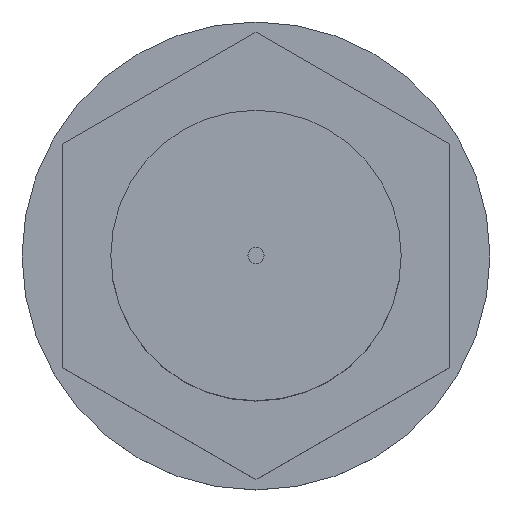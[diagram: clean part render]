
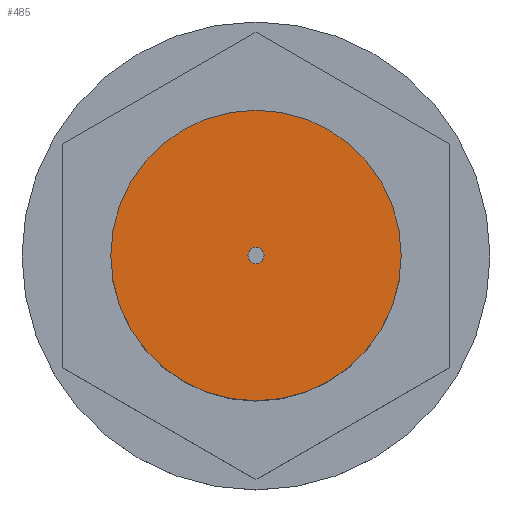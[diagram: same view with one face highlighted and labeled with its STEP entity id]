
A CAD part, top view. The second image highlights one B-rep face of the part: STEP entity #485.
In plain terms, the highlighted planar face has unit normal (0, 0, 1) as drawn and (-1, 0, 0) by its records, which use the part's own axes.
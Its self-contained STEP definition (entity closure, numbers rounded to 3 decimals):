
#260 = VERTEX_POINT ( 'NONE', #692 ) ;
#262 = EDGE_CURVE ( 'NONE', #260, #263, #691, .T. ) ;
#263 = VERTEX_POINT ( 'NONE', #592 ) ;
#449 = VERTEX_POINT ( 'NONE', #820 ) ;
#451 = EDGE_CURVE ( 'NONE', #452, #449, #1007, .T. ) ;
#452 = VERTEX_POINT ( 'NONE', #1019 ) ;
#485 = ADVANCED_FACE ( 'NONE', ( #1164, #1159 ), #1158, .F. ) ;
#486 = EDGE_LOOP ( 'NONE', ( #487, #489 ) ) ;
#487 = ORIENTED_EDGE ( 'NONE', *, *, #488, .F. ) ;
#488 = EDGE_CURVE ( 'NONE', #263, #260, #1153, .T. ) ;
#489 = ORIENTED_EDGE ( 'NONE', *, *, #262, .F. ) ;
#490 = EDGE_LOOP ( 'NONE', ( #491, #492 ) ) ;
#491 = ORIENTED_EDGE ( 'NONE', *, *, #451, .T. ) ;
#492 = ORIENTED_EDGE ( 'NONE', *, *, #493, .T. ) ;
#493 = EDGE_CURVE ( 'NONE', #449, #452, #1148, .T. ) ;
#592 = CARTESIAN_POINT ( 'NONE',  ( 0., 0., 9. ) ) ;
#593 = DIRECTION ( 'NONE',  ( 0., 0., -1. ) ) ;
#594 = DIRECTION ( 'NONE',  ( 1., 0., 0. ) ) ;
#595 = CARTESIAN_POINT ( 'NONE',  ( 0., 0., 0. ) ) ;
#690 = AXIS2_PLACEMENT_3D ( 'NONE', #595, #594, #593 ) ;
#691 = CIRCLE ( 'NONE', #690, 9. ) ;
#692 = CARTESIAN_POINT ( 'NONE',  ( 0., 0., -9. ) ) ;
#820 = CARTESIAN_POINT ( 'NONE',  ( 0., 0., -0.5 ) ) ;
#1007 = CIRCLE ( 'NONE', #1018, 0.5 ) ;
#1011 = DIRECTION ( 'NONE',  ( 1., 0., 0. ) ) ;
#1017 = DIRECTION ( 'NONE',  ( 0., 0., -1. ) ) ;
#1018 = AXIS2_PLACEMENT_3D ( 'NONE', #1209, #1011, #1017 ) ;
#1019 = CARTESIAN_POINT ( 'NONE',  ( 0., 0., 0.5 ) ) ;
#1144 = DIRECTION ( 'NONE',  ( 0., 0., -1. ) ) ;
#1145 = DIRECTION ( 'NONE',  ( 1., 0., 0. ) ) ;
#1146 = CARTESIAN_POINT ( 'NONE',  ( 0., 0., 0. ) ) ;
#1147 = AXIS2_PLACEMENT_3D ( 'NONE', #1146, #1145, #1144 ) ;
#1148 = CIRCLE ( 'NONE', #1147, 0.5 ) ;
#1149 = DIRECTION ( 'NONE',  ( 0., 0., -1. ) ) ;
#1150 = DIRECTION ( 'NONE',  ( 1., 0., 0. ) ) ;
#1151 = CARTESIAN_POINT ( 'NONE',  ( 0., 0., 0. ) ) ;
#1152 = AXIS2_PLACEMENT_3D ( 'NONE', #1151, #1150, #1149 ) ;
#1153 = CIRCLE ( 'NONE', #1152, 9. ) ;
#1154 = DIRECTION ( 'NONE',  ( 0., 0., -1. ) ) ;
#1155 = DIRECTION ( 'NONE',  ( 1., 0., 0. ) ) ;
#1156 = CARTESIAN_POINT ( 'NONE',  ( 0., 0., 0. ) ) ;
#1157 = AXIS2_PLACEMENT_3D ( 'NONE', #1156, #1155, #1154 ) ;
#1158 = PLANE ( 'NONE',  #1157 ) ;
#1159 = FACE_BOUND ( 'NONE', #490, .T. ) ;
#1164 = FACE_OUTER_BOUND ( 'NONE', #486, .T. ) ;
#1209 = CARTESIAN_POINT ( 'NONE',  ( 0., 0., 0. ) ) ;
